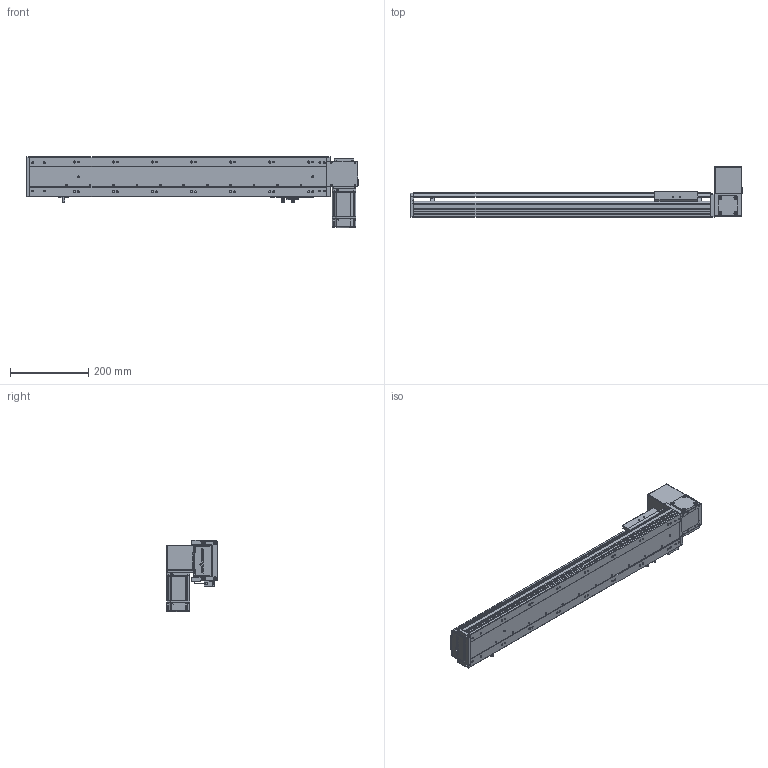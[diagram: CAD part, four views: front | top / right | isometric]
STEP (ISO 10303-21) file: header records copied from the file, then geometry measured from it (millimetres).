
FILE_DESCRIPTION (( 'STEP AP203' ), '1' );
FILE_NAME ('RY100-T-300-UL.SLDASM_550.step', '2024-04-25T08:39:25', ( '盈信电脑' ), ( '东莞市道滘镇水果街19号' ), 'SwSTEP 2.0', 'SolidWorks 2016', '' );
FILE_SCHEMA (( 'CONFIG_CONTROL_DESIGN' ));
Length unit declared in the file: millimetre
Products named in the file (15): RY100-T-300-RK倰第菁釱_550; RY100綴裔啣; RY100-T粣創揤踡裔; RY100-T肮祭謫臏賑輸; RY100-T-300-RK倰第奻裔_550; RY80-T肮祭謫奻殏俋欶; RY100-T翋肮祭謫裔啣; RY100-T翋肮祭謫裔啣2; RY100-T肮祭謫翋盓傅釱; RY100-T左右折电机安装板; 滅袉蝶18-10; RY100俋离覜茼え; 1; 覜茼ん672; RY100-T-300-UL.SLDASM_550
Assembly tree (17 placements, depth 2):
  RY100-T-300-UL.SLDASM_550
    RY100-T-300-RK倰第菁釱_550
    RY100-T-300-RK倰第奻裔_550
    RY100-T肮祭謫臏賑輸
    RY100綴裔啣
    覜茼ん672  x3
    RY100俋离覜茼え
    RY100-T肮祭謫翋盓傅釱
    滅袉蝶18-10  x2
    RY100-T翋肮祭謫裔啣2
    RY100-T翋肮祭謫裔啣
    1
    RY100-T左右折电机安装板
    RY80-T肮祭謫奻殏俋欶
    RY100-T粣創揤踡裔
Bounding box: 850 x 130.5 x 182.5 mm (x, y, z)
Volume: 1906963.5 mm3; surface area: 762394.2 mm2
Topology: 17 solids, 17 shells, 2185 faces, 6067 edges, 3939 vertices
Faces by surface type: plane 1203, cylinder 773, cone 131, bspline 78
Entity records: 70191 total; most frequent: CARTESIAN_POINT 16919, ORIENTED_EDGE 10966, DIRECTION 10429, EDGE_CURVE 5483, VERTEX_POINT 3607, VECTOR 3573, LINE 3573, AXIS2_PLACEMENT_3D 3428
